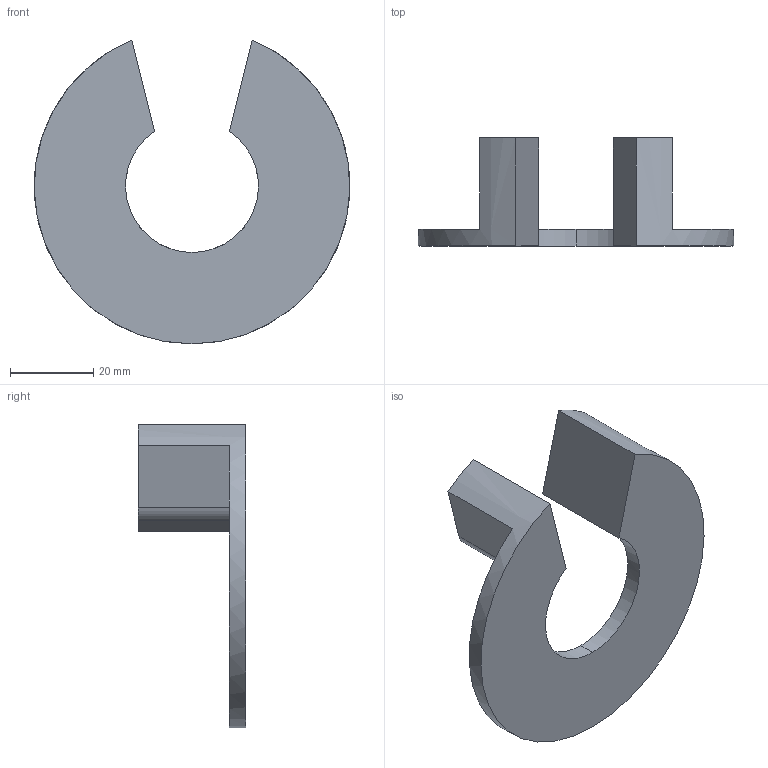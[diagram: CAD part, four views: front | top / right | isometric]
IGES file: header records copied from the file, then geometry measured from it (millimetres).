
Start section: Data from Parasolid IGES Translator 15.0.47, Copyright(c) 2006 Siemens P LM Software. All Rights Reserved.
Global section: file name: 9097899.igs; native system:  By UGS Corp.; preprocessor: XPlus GENERIC/IGES 3.0; author: Noname; organization: Noname; date: 20160630.162650; units: millimetre
Bounding box: 75.98 x 26 x 73.13 mm (x, y, z)
Surface area: 10752 mm2 (no closed solid volume)
Topology: 0 solids, 0 shells, 20 faces, 96 edges, 94 vertices
Faces by surface type: extrusion 12, revolution 8
